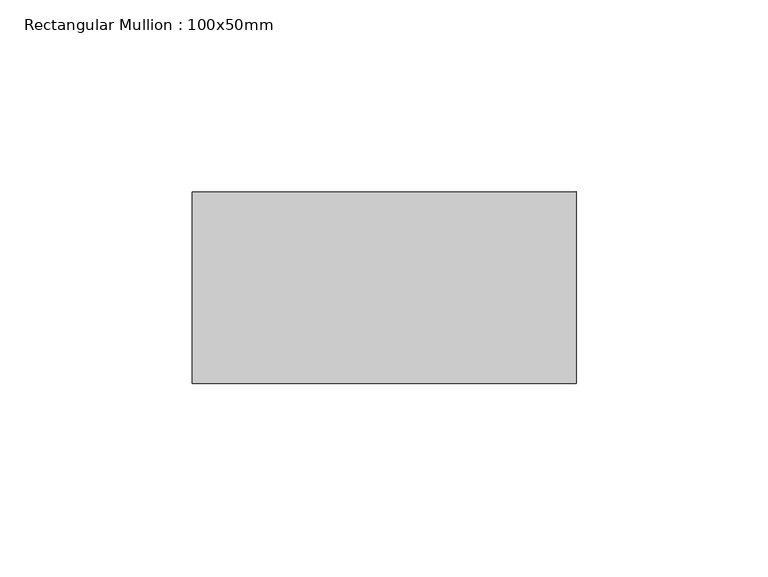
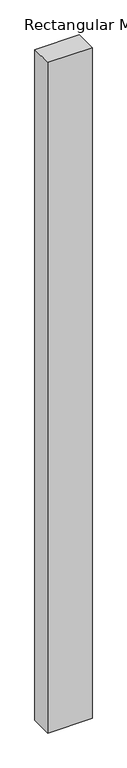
"""IFC4 building model written with IfcOpenShell, lengths in millimetres: member geometry, Rectangular Mullion : 100x50mm."""

from ifc_helpers import new_model, si_unit, frame, origin, place, context, project, spatial, polyline, outline, extrude, source, transform, mapped, element, save


def rectangular_mullion_100x50mm_edddec5c(model_context):
    return source(origin(), model_context, "Body", "SweptSolid", [
        extrude(outline(polyline([(0.0, 25.0), (0.0, -25.0), (-100.0, -25.0), (-100.0, 25.0), (0.0, 25.0)])), frame((0.0, 0.0, -1600.0), z_axis=(0.0, 0.0, 1.0), x_axis=(1.0, 0.0, 0.0)), (0.0, 0.0, 1.0), 1600.0),
    ])


if __name__ == "__main__":
    model = new_model("IFC4")
    model_context = context("Model", 3, world=origin())
    ifc_project = project(units=[si_unit("LENGTHUNIT", "METRE", prefix="MILLI")], contexts=[model_context])
    site = spatial("IfcSite", under=ifc_project)
    building = spatial("IfcBuilding", under=site)
    placement = place(None, origin())
    rectangular_mullion_100x50mm_shape = rectangular_mullion_100x50mm_edddec5c(model_context)
    element("IfcMember", 1, ObjectType="Rectangular Mullion : 100x50mm", at=placement, inside=building, context=model_context, shape_type="MappedRepresentation", body=[
        mapped(rectangular_mullion_100x50mm_shape, transform((0.0, 0.0, 0.0), x_axis=(1.0, 0.0, 0.0), y_axis=(0.0, 1.0, 0.0), z_axis=(0.0, 0.0, 1.0))),
    ])
    save(model, "model.ifc")
